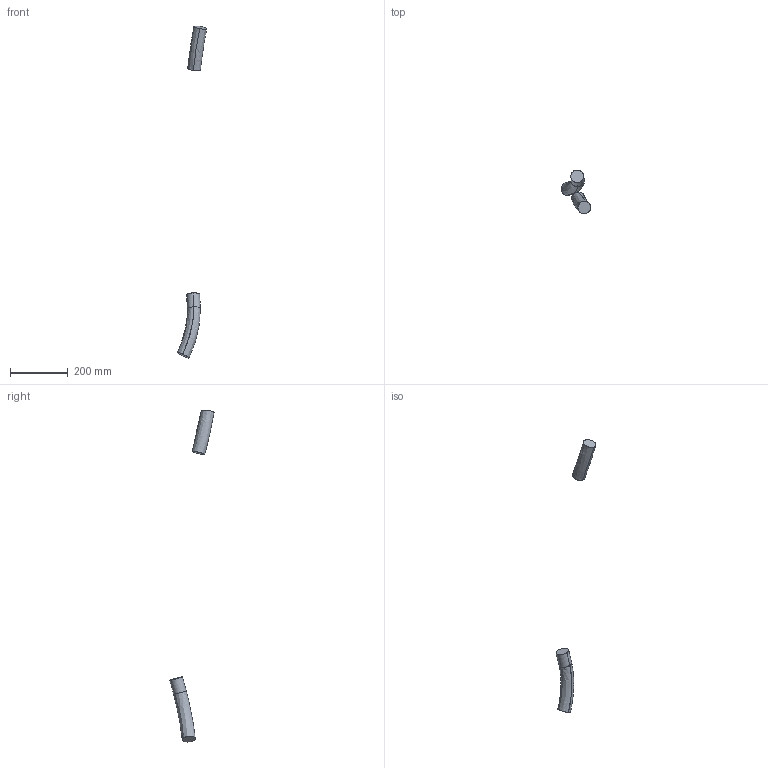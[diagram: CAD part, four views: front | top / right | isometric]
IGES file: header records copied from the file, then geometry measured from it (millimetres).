
Start section: SolidWorks IGES file using analytic representation for surfaces
Global section: file name: C:\Users\SEALDUN\OneDrive - ABB\Documents\R&D Robotics\Work Items\WI 632927 light weight hole removal\IGES\IRB5720-LID-MH_90kg-300_OC_03_IGES_J\IRB5720-LID_90kg-300_OmniCore_rev00_LINK02m_CABLE.igs; native system: SolidWorks 2024; preprocessor: SolidWorks 2024; author: SEALDUN; date: 250708.123107; units: millimetre
Bounding box: 101.53 x 152.84 x 1147.31 mm (x, y, z)
Surface area: 58226.9 mm2 (no closed solid volume)
Topology: 0 solids, 0 shells, 10 faces, 306 edges, 306 vertices
Faces by surface type: bspline 8, revolution 2
